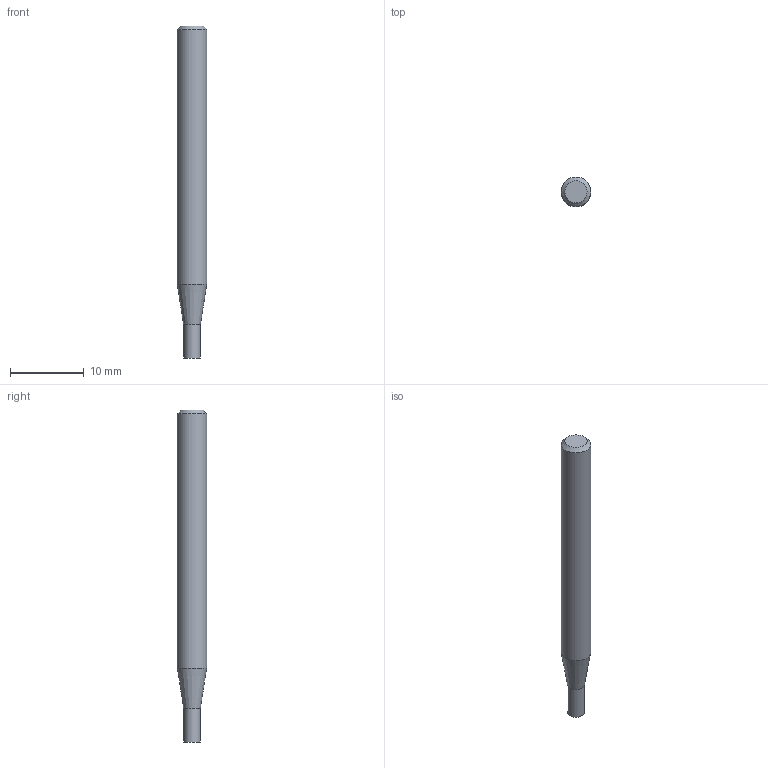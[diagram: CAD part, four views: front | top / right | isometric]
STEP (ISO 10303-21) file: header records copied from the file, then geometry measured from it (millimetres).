
FILE_DESCRIPTION((''),'2;1');
FILE_NAME('C:\Users\nsx150\AppData\Local\Temp\Mastercam 2021\QTW1OOEEGF\TEMP.step','2021-04-08T10:36:38',(''),(''),'STEP Write','Mastercam 2021 ... CNC Software, Inc.','');
FILE_SCHEMA(('AUTOMOTIVE_DESIGN'));
Length unit declared in the file: millimetre
Products named in the file (1): None
Bounding box: 4 x 4 x 45 mm (x, y, z)
Volume: 500.8 mm3; surface area: 548.3 mm2
Topology: 2 solids, 2 shells, 8 faces, 10 edges, 6 vertices
Faces by surface type: plane 4, cylinder 2, cone 2
Full cylindrical faces by diameter (mm): 2.3 x1, 4 x1
Entity records: 190 total; most frequent: DIRECTION 32, CARTESIAN_POINT 22, AXIS2_PLACEMENT_3D 16, ORIENTED_EDGE 12, EDGE_LOOP 12, STYLED_ITEM 11, ADVANCED_FACE 8, VERTEX_POINT 6
